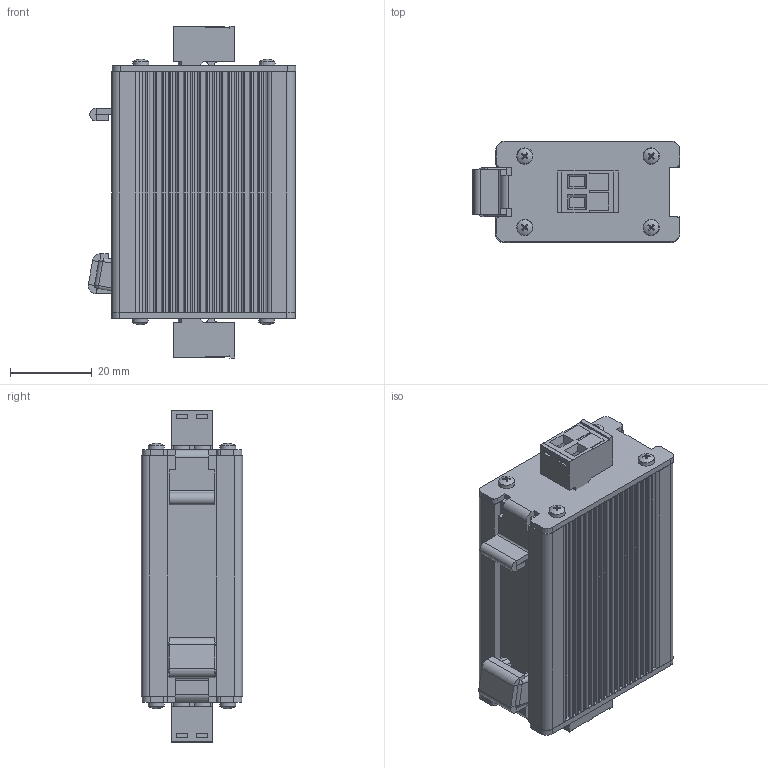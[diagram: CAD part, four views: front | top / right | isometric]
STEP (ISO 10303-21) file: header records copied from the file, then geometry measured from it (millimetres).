
FILE_DESCRIPTION(/* description */ (''),/* implementation_level */ '2;1');
FILE_NAME(/* name */ 'K:\PROJEKTY ROZPRACOVANÉ\MODELY DO KATALOGU\HT\3D - STEP\HT-D, NV1.stp',/* time_stamp */ '2021-07-15T09:40:23+02:00',/* author */ ('Melmen'),/* organization */ (''),/* preprocessor_version */ 'ST-DEVELOPER v18.1',/* originating_system */ 'Autodesk Inventor 2021',/* authorisation */ '');
FILE_SCHEMA (('AUTOMOTIVE_DESIGN { 1 0 10303 214 3 1 1 }'));
Length unit declared in the file: millimetre
Products named in the file (8): HT-D 1_6; AL PROFIL; H1-045-00-02-02; H1-045-00-02-03; ISO 7049 - ST 2,2 x 6,5 - C - H; PRUŽNÝ ČLEN; SAMEC 2EDGK-5.08; ISO 2009 - M1,6 x 2,5
Assembly tree (19 placements, depth 2):
  HT-D 1_6
    AL PROFIL  x2
    H1-045-00-02-02
    H1-045-00-02-03
    ISO 7049 - ST 2,2 x 6,5 - C - H  x8
    PRUŽNÝ ČLEN
    ISO 2009 - M1,6 x 2,5  x4
    SAMEC 2EDGK-5.08  x2
Bounding box: 50.87 x 24.8 x 81.4 mm (x, y, z)
Volume: 30682.9 mm3; surface area: 35436.9 mm2
Topology: 19 solids, 19 shells, 1002 faces, 2732 edges, 1784 vertices
Faces by surface type: plane 631, cylinder 213, cone 100, torus 38, sphere 20
Full cylindrical faces by diameter (mm): 1.171 x4, 1.5 x4, 1.6 x4, 2.2 x8, 3.2 x12, 3.7 x4
Entity records: 15569 total; most frequent: CARTESIAN_POINT 2865, DIRECTION 2576, ORIENTED_EDGE 2572, EDGE_CURVE 1286, LINE 958, VECTOR 958, VERTEX_POINT 830, AXIS2_PLACEMENT_3D 809
